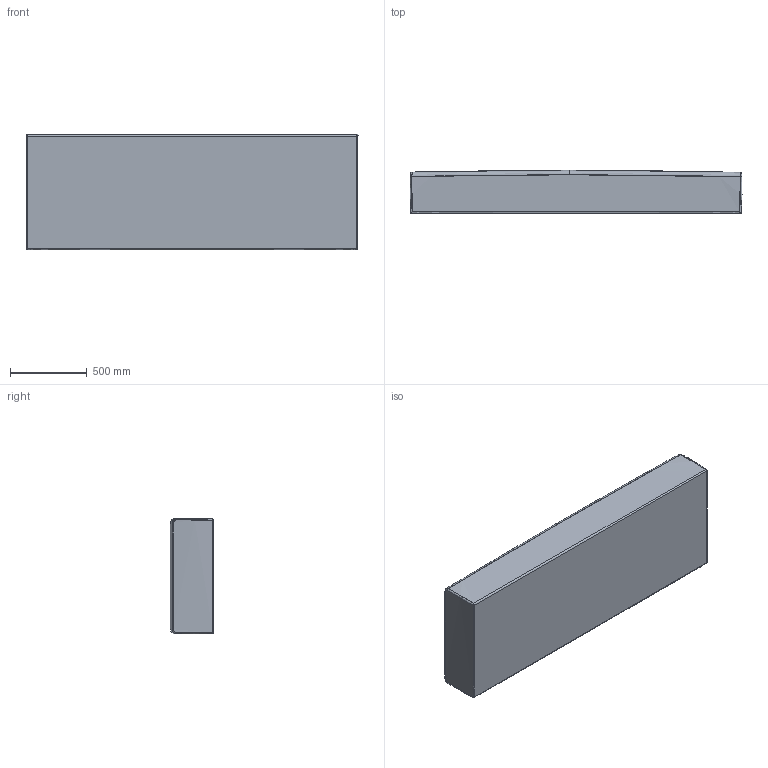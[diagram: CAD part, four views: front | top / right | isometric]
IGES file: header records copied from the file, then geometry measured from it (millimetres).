
Start section: SolidWorks IGES file using NURBS representation for surfaces
Global section: file name: D:\VICCARBE\PRODUCTOS\19-MASS\04-MODELADOS (PLANOS)\SOLIDWORKS\PIEZAS\Seats\01-IGES\VICCARBE_Mass_seat_216.IGS; native system: SolidWorks 2009; preprocessor: SolidWorks 2009; author: RUBEN; date: 110908.162324; units: millimetre
Bounding box: 2159.77 x 280.02 x 753.95 mm (x, y, z)
Surface area: 4739456.2 mm2 (no closed solid volume)
Topology: 0 solids, 0 shells, 30 faces, 333 edges, 329 vertices
Faces by surface type: bspline 30
